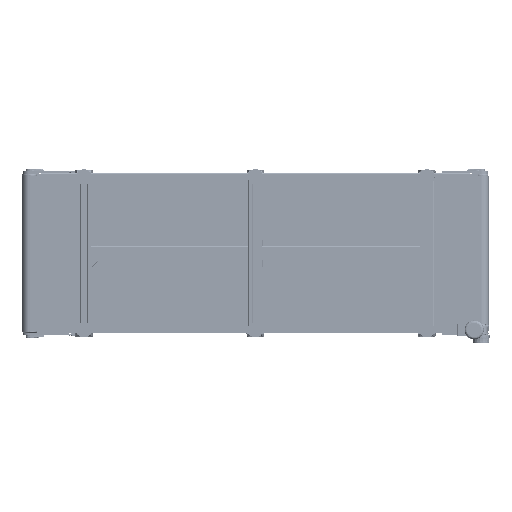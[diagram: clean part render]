
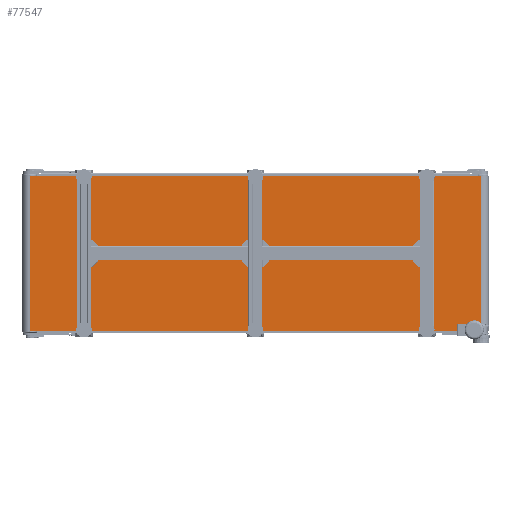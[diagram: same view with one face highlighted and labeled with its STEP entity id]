
A CAD part, front view. The second image highlights one B-rep face of the part: STEP entity #77547.
In plain terms, the highlighted planar face has unit normal (0, -1, 0).
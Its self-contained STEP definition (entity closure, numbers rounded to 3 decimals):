
#621 = LINE ( 'NONE', #129648, #279075 ) ;
#11747 = DIRECTION ( 'NONE',  ( 0., 1., 0. ) ) ;
#13799 = ORIENTED_EDGE ( 'NONE', *, *, #192664, .T. ) ;
#25944 = VERTEX_POINT ( 'NONE', #195201 ) ;
#40178 = DIRECTION ( 'NONE',  ( 0., 0., 1. ) ) ;
#50873 = DIRECTION ( 'NONE',  ( 1., 0., 0. ) ) ;
#59944 = VERTEX_POINT ( 'NONE', #135612 ) ;
#66271 = CARTESIAN_POINT ( 'NONE',  ( -1456., -49.5, -498. ) ) ;
#67457 = VERTEX_POINT ( 'NONE', #66271 ) ;
#68366 = CARTESIAN_POINT ( 'NONE',  ( 1456., -49.5, 498. ) ) ;
#70823 = VECTOR ( 'NONE', #198020, 1000. ) ;
#77547 = ADVANCED_FACE ( 'NONE', ( #142425 ), #164290, .F. ) ;
#80681 = VECTOR ( 'NONE', #214356, 1000. ) ;
#100292 = EDGE_CURVE ( 'NONE', #154044, #59944, #172881, .T. ) ;
#110261 = EDGE_LOOP ( 'NONE', ( #252233, #249491, #144856, #13799 ) ) ;
#129648 = CARTESIAN_POINT ( 'NONE',  ( -1456., -49.5, -498. ) ) ;
#135612 = CARTESIAN_POINT ( 'NONE',  ( 1456., -49.5, 498. ) ) ;
#142425 = FACE_OUTER_BOUND ( 'NONE', #110261, .T. ) ;
#144856 = ORIENTED_EDGE ( 'NONE', *, *, #100292, .F. ) ;
#149414 = CARTESIAN_POINT ( 'NONE',  ( -1456., -49.5, 498. ) ) ;
#154044 = VERTEX_POINT ( 'NONE', #164865 ) ;
#156065 = EDGE_CURVE ( 'NONE', #59944, #25944, #266318, .T. ) ;
#164290 = PLANE ( 'NONE',  #325054 ) ;
#164865 = CARTESIAN_POINT ( 'NONE',  ( -1456., -49.5, 498. ) ) ;
#171852 = EDGE_CURVE ( 'NONE', #67457, #25944, #621, .T. ) ;
#172881 = LINE ( 'NONE', #149414, #70823 ) ;
#192664 = EDGE_CURVE ( 'NONE', #154044, #67457, #278601, .T. ) ;
#195201 = CARTESIAN_POINT ( 'NONE',  ( 1456., -49.5, -498. ) ) ;
#198020 = DIRECTION ( 'NONE',  ( 1., 0., 0. ) ) ;
#207516 = VECTOR ( 'NONE', #223312, 1000. ) ;
#214356 = DIRECTION ( 'NONE',  ( 0., 0., -1. ) ) ;
#223312 = DIRECTION ( 'NONE',  ( 0., 0., -1. ) ) ;
#241370 = CARTESIAN_POINT ( 'NONE',  ( -1456., -49.5, 498. ) ) ;
#249491 = ORIENTED_EDGE ( 'NONE', *, *, #156065, .F. ) ;
#252233 = ORIENTED_EDGE ( 'NONE', *, *, #171852, .T. ) ;
#266318 = LINE ( 'NONE', #68366, #80681 ) ;
#278601 = LINE ( 'NONE', #327236, #207516 ) ;
#279075 = VECTOR ( 'NONE', #50873, 1000. ) ;
#325054 = AXIS2_PLACEMENT_3D ( 'NONE', #241370, #11747, #40178 ) ;
#327236 = CARTESIAN_POINT ( 'NONE',  ( -1456., -49.5, 498. ) ) ;
